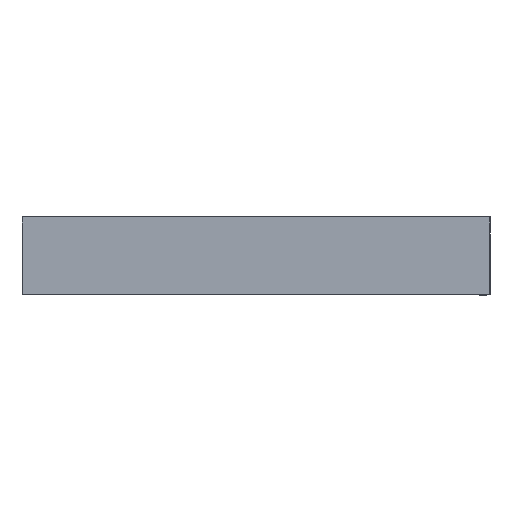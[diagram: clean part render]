
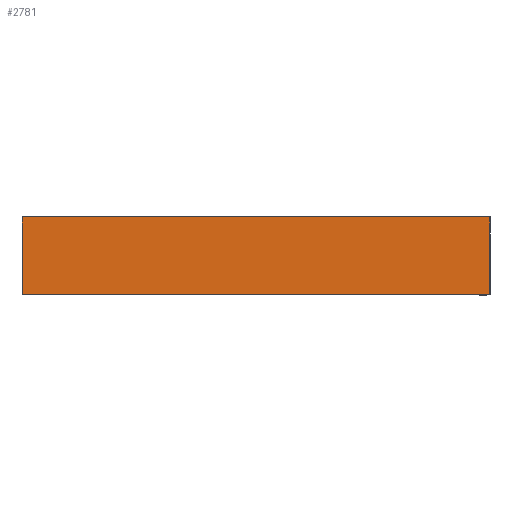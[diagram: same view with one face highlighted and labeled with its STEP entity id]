
A CAD part, top view. The second image highlights one B-rep face of the part: STEP entity #2781.
In plain terms, the highlighted planar face has unit normal (0, 0, 1).
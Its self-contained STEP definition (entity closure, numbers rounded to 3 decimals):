
#435=FACE_OUTER_BOUND('',#609,.T.);
#609=EDGE_LOOP('',(#2052,#2053,#2054,#2055));
#806=LINE('',#4268,#1049);
#825=LINE('',#4314,#1068);
#846=LINE('',#4364,#1089);
#858=LINE('',#4391,#1101);
#1049=VECTOR('',#3374,10.);
#1068=VECTOR('',#3421,10.);
#1089=VECTOR('',#3472,10.);
#1101=VECTOR('',#3508,10.);
#1291=VERTEX_POINT('',#4265);
#1292=VERTEX_POINT('',#4267);
#1305=VERTEX_POINT('',#4313);
#1319=VERTEX_POINT('',#4363);
#1535=EDGE_CURVE('',#1292,#1291,#806,.T.);
#1558=EDGE_CURVE('',#1305,#1292,#825,.T.);
#1583=EDGE_CURVE('',#1319,#1305,#846,.T.);
#1598=EDGE_CURVE('',#1319,#1291,#858,.T.);
#2052=ORIENTED_EDGE('',*,*,#1535,.T.);
#2053=ORIENTED_EDGE('',*,*,#1598,.F.);
#2054=ORIENTED_EDGE('',*,*,#1583,.T.);
#2055=ORIENTED_EDGE('',*,*,#1558,.T.);
#2664=PLANE('',#3066);
#2781=ADVANCED_FACE('',(#435),#2664,.T.);
#3066=AXIS2_PLACEMENT_3D('',#4393,#3511,#3512);
#3374=DIRECTION('',(0.,1.,0.));
#3421=DIRECTION('',(1.,0.,0.));
#3472=DIRECTION('',(0.,-1.,0.));
#3508=DIRECTION('',(1.,0.,0.));
#3511=DIRECTION('center_axis',(0.,0.,1.));
#3512=DIRECTION('ref_axis',(1.,0.,0.));
#4265=CARTESIAN_POINT('',(66.9,1050.,0.8));
#4267=CARTESIAN_POINT('',(66.9,-750.4,0.8));
#4268=CARTESIAN_POINT('',(66.9,-300.7,0.8));
#4313=CARTESIAN_POINT('',(-229.9,-750.4,0.8));
#4314=CARTESIAN_POINT('',(-155.7,-750.4,0.8));
#4363=CARTESIAN_POINT('',(-229.9,1050.,0.8));
#4364=CARTESIAN_POINT('',(-229.9,599.5,0.8));
#4391=CARTESIAN_POINT('',(68.5,1050.,0.8));
#4393=CARTESIAN_POINT('Origin',(-81.5,149.,0.8));
